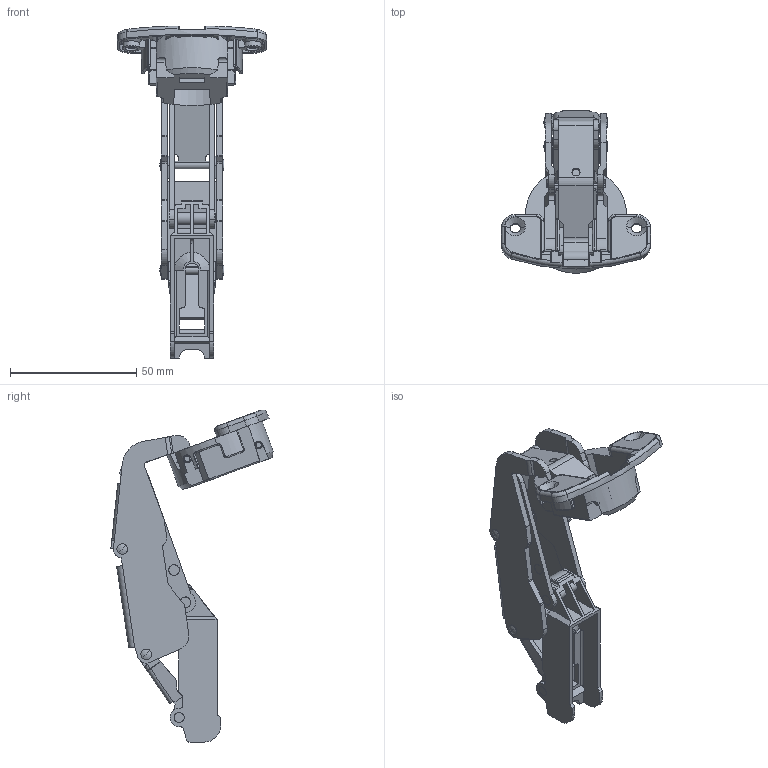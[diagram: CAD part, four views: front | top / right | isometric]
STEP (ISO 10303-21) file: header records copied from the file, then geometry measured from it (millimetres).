
FILE_DESCRIPTION (( 'STEP AP203' ), '1' );
FILE_NAME ('H160_34_18_160.STEP', '2013-05-30T12:11:24', ( '' ), ( '' ), 'SwSTEP 2.0', 'SolidWorks 2012', '' );
FILE_SCHEMA (( 'CONFIG_CONTROL_DESIGN' ));
Length unit declared in the file: millimetre
Products named in the file (8): H160_34_18_160; H160_socket; H160_arm_SJ; H160_arm_SL_23180; H160_arm_GD; H160_arm_CT; H160_body_18
Assembly tree (7 placements, depth 3):
  H160_34_18_160
    H160_34_18_160
      H160_body_18
      H160_arm_CT
      H160_arm_GD
      H160_arm_SL_23180
      H160_arm_SJ
      H160_socket
Bounding box: 59 x 64.24 x 131.4 mm (x, y, z)
Volume: 27421.3 mm3; surface area: 34275.4 mm2
Topology: 6 solids, 8 shells, 1080 faces, 3034 edges, 1944 vertices
Faces by surface type: plane 587, cylinder 373, cone 50, torus 46, bspline 18, sphere 6
Entity records: 36630 total; most frequent: CARTESIAN_POINT 7661, ORIENTED_EDGE 6064, DIRECTION 5843, EDGE_CURVE 3032, AXIS2_PLACEMENT_3D 1978, VERTEX_POINT 1944, VECTOR 1887, LINE 1887
